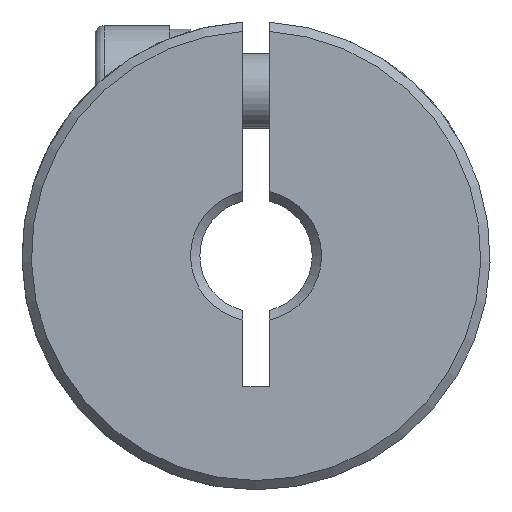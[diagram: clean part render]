
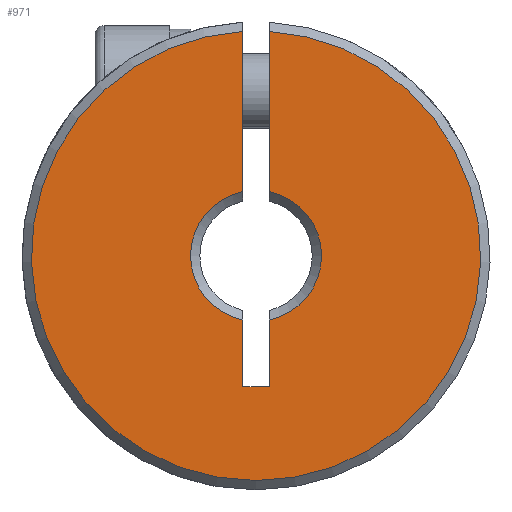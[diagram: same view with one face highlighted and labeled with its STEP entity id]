
A CAD part, front view. The second image highlights one B-rep face of the part: STEP entity #971.
In plain terms, the highlighted planar face has unit normal (0, -1, 0).
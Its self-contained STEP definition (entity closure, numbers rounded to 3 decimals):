
#25 = ORIENTED_EDGE ( 'NONE', *, *, #249, .F. ) ;
#74 = CARTESIAN_POINT ( 'NONE',  ( 0., 0.25, 0. ) ) ;
#108 = CIRCLE ( 'NONE', #3026, 3.5 ) ;
#234 = DIRECTION ( 'NONE',  ( 0., -1., 0. ) ) ;
#249 = EDGE_CURVE ( 'NONE', #573, #1267, #2960, .T. ) ;
#330 = CARTESIAN_POINT ( 'NONE',  ( -0.7, 0.25, -3.429 ) ) ;
#368 = VECTOR ( 'NONE', #1672, 1000. ) ;
#389 = CARTESIAN_POINT ( 'NONE',  ( 0., 0.25, 0. ) ) ;
#398 = CARTESIAN_POINT ( 'NONE',  ( 0.7, 0.25, -3.429 ) ) ;
#430 = DIRECTION ( 'NONE',  ( 0., 1., 0. ) ) ;
#459 = ORIENTED_EDGE ( 'NONE', *, *, #3225, .F. ) ;
#469 = VERTEX_POINT ( 'NONE', #1504 ) ;
#573 = VERTEX_POINT ( 'NONE', #2589 ) ;
#600 = VERTEX_POINT ( 'NONE', #2095 ) ;
#769 = CARTESIAN_POINT ( 'NONE',  ( -0.7, 0.25, -7. ) ) ;
#774 = VECTOR ( 'NONE', #3262, 1000. ) ;
#843 = DIRECTION ( 'NONE',  ( 0., 0., 1. ) ) ;
#878 = CARTESIAN_POINT ( 'NONE',  ( 0.7, 0.25, -7. ) ) ;
#916 = CARTESIAN_POINT ( 'NONE',  ( 0.7, 0.25, -7. ) ) ;
#970 = EDGE_CURVE ( 'NONE', #3401, #3202, #2952, .T. ) ;
#971 = ADVANCED_FACE ( 'NONE', ( #1664 ), #2839, .F. ) ;
#1130 = CARTESIAN_POINT ( 'NONE',  ( -0.7, 0.25, 3.429 ) ) ;
#1201 = CARTESIAN_POINT ( 'NONE',  ( 12.5, 0.25, -50. ) ) ;
#1225 = ORIENTED_EDGE ( 'NONE', *, *, #3088, .F. ) ;
#1267 = VERTEX_POINT ( 'NONE', #398 ) ;
#1309 = EDGE_CURVE ( 'NONE', #1919, #1455, #1576, .T. ) ;
#1455 = VERTEX_POINT ( 'NONE', #2576 ) ;
#1504 = CARTESIAN_POINT ( 'NONE',  ( -0.7, 0.25, -7. ) ) ;
#1576 = LINE ( 'NONE', #916, #1960 ) ;
#1653 = VECTOR ( 'NONE', #2529, 1000. ) ;
#1664 = FACE_OUTER_BOUND ( 'NONE', #2605, .T. ) ;
#1672 = DIRECTION ( 'NONE',  ( 0., 0., 1. ) ) ;
#1736 = LINE ( 'NONE', #2992, #774 ) ;
#1772 = ORIENTED_EDGE ( 'NONE', *, *, #1309, .F. ) ;
#1912 = EDGE_CURVE ( 'NONE', #600, #1455, #3462, .T. ) ;
#1919 = VERTEX_POINT ( 'NONE', #3427 ) ;
#1960 = VECTOR ( 'NONE', #2264, 1000. ) ;
#2036 = DIRECTION ( 'NONE',  ( 0., 1., 0. ) ) ;
#2045 = CARTESIAN_POINT ( 'NONE',  ( 0.7, 0.25, -7. ) ) ;
#2093 = AXIS2_PLACEMENT_3D ( 'NONE', #1201, #2036, #3107 ) ;
#2095 = CARTESIAN_POINT ( 'NONE',  ( -0.7, 0.25, 11.98 ) ) ;
#2099 = CARTESIAN_POINT ( 'NONE',  ( 0., 0.25, 0. ) ) ;
#2211 = EDGE_CURVE ( 'NONE', #1919, #1267, #108, .T. ) ;
#2264 = DIRECTION ( 'NONE',  ( 0., 0., 1. ) ) ;
#2305 = VECTOR ( 'NONE', #2610, 1000. ) ;
#2529 = DIRECTION ( 'NONE',  ( 1., 0., 0. ) ) ;
#2571 = DIRECTION ( 'NONE',  ( 0., 0., 1. ) ) ;
#2576 = CARTESIAN_POINT ( 'NONE',  ( 0.7, 0.25, 11.98 ) ) ;
#2589 = CARTESIAN_POINT ( 'NONE',  ( 0.7, 0.25, -7. ) ) ;
#2605 = EDGE_LOOP ( 'NONE', ( #1772, #3087, #25, #3394, #1225, #3254, #459, #3259 ) ) ;
#2610 = DIRECTION ( 'NONE',  ( 0., 0., -1. ) ) ;
#2660 = EDGE_CURVE ( 'NONE', #469, #573, #3108, .T. ) ;
#2746 = AXIS2_PLACEMENT_3D ( 'NONE', #2099, #234, #2571 ) ;
#2794 = AXIS2_PLACEMENT_3D ( 'NONE', #389, #430, #3338 ) ;
#2815 = LINE ( 'NONE', #769, #2305 ) ;
#2839 = PLANE ( 'NONE',  #2093 ) ;
#2952 = CIRCLE ( 'NONE', #2794, 3.5 ) ;
#2960 = LINE ( 'NONE', #878, #368 ) ;
#2992 = CARTESIAN_POINT ( 'NONE',  ( -0.7, 0.25, -7. ) ) ;
#3026 = AXIS2_PLACEMENT_3D ( 'NONE', #74, #3244, #843 ) ;
#3087 = ORIENTED_EDGE ( 'NONE', *, *, #2211, .T. ) ;
#3088 = EDGE_CURVE ( 'NONE', #3401, #469, #2815, .T. ) ;
#3107 = DIRECTION ( 'NONE',  ( 0., 0., 1. ) ) ;
#3108 = LINE ( 'NONE', #2045, #1653 ) ;
#3202 = VERTEX_POINT ( 'NONE', #1130 ) ;
#3225 = EDGE_CURVE ( 'NONE', #600, #3202, #1736, .T. ) ;
#3244 = DIRECTION ( 'NONE',  ( 0., 1., 0. ) ) ;
#3254 = ORIENTED_EDGE ( 'NONE', *, *, #970, .T. ) ;
#3259 = ORIENTED_EDGE ( 'NONE', *, *, #1912, .T. ) ;
#3262 = DIRECTION ( 'NONE',  ( 0., 0., -1. ) ) ;
#3338 = DIRECTION ( 'NONE',  ( 0., 0., 1. ) ) ;
#3394 = ORIENTED_EDGE ( 'NONE', *, *, #2660, .F. ) ;
#3401 = VERTEX_POINT ( 'NONE', #330 ) ;
#3427 = CARTESIAN_POINT ( 'NONE',  ( 0.7, 0.25, 3.429 ) ) ;
#3462 = CIRCLE ( 'NONE', #2746, 12. ) ;
